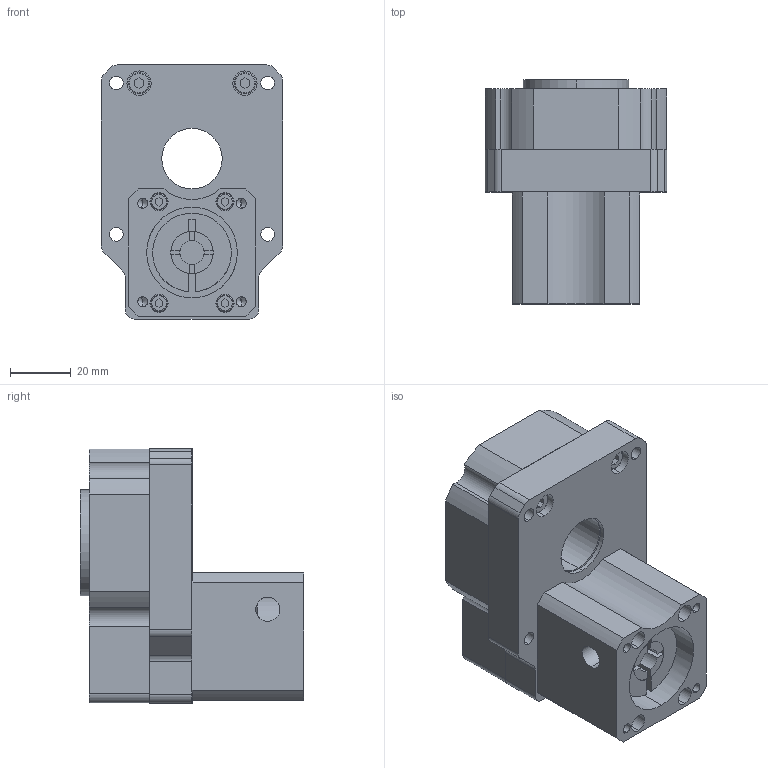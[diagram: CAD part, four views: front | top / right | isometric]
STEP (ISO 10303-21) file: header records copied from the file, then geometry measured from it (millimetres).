
FILE_DESCRIPTION (( 'STEP AP214' ), '1' );
FILE_NAME ('HRP060-5-8-30-46-M4_2019.STEP', '2019-03-12T00:35:15', ( 'Y' ), ( 'NCU' ), 'SwSTEP 2.0', 'SolidWorks 2015', '' );
FILE_SCHEMA (( 'AUTOMOTIVE_DESIGN' ));
Length unit declared in the file: millimetre
Products named in the file (1): HRP060-5-8-30-46-M4_2019
Bounding box: 60 x 74 x 84 mm (x, y, z)
Volume: 190815.4 mm3; surface area: 37450.9 mm2
Topology: 1 solids, 7 shells, 296 faces, 725 edges, 460 vertices
Faces by surface type: cylinder 135, plane 129, cone 20, torus 12
Entity records: 9850 total; most frequent: CARTESIAN_POINT 1682, DIRECTION 1603, ORIENTED_EDGE 1410, EDGE_CURVE 705, AXIS2_PLACEMENT_3D 609, VERTEX_POINT 460, LINE 385, VECTOR 385
